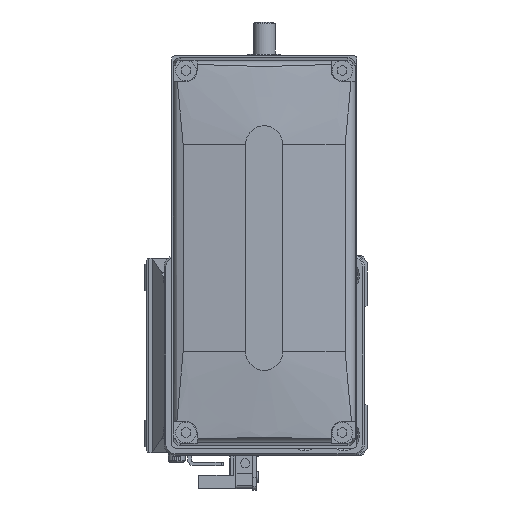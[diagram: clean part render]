
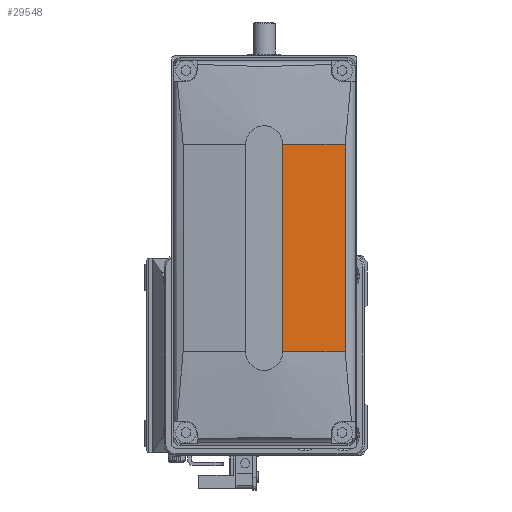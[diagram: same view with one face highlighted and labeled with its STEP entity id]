
A CAD part, left-side view. The second image highlights one B-rep face of the part: STEP entity #29548.
In plain terms, the highlighted planar face has unit normal (-0.996, -0.087, 0) as drawn and (-0.996, 0, -0.087) by its records, which use the part's own axes.
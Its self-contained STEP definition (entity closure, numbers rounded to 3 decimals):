
#158 = DIRECTION ( 'NONE',  ( -0.087, 0., 0.996 ) ) ;
#732 = EDGE_LOOP ( 'NONE', ( #13918, #8930, #9094, #34210 ) ) ;
#1643 = AXIS2_PLACEMENT_3D ( 'NONE', #5879, #23723, #15141 ) ;
#2808 = LINE ( 'NONE', #27849, #11688 ) ;
#4232 = VERTEX_POINT ( 'NONE', #18879 ) ;
#5879 = CARTESIAN_POINT ( 'NONE',  ( -50., 128., -5. ) ) ;
#6673 = EDGE_CURVE ( 'NONE', #12698, #12526, #38515, .T. ) ;
#8930 = ORIENTED_EDGE ( 'NONE', *, *, #32548, .F. ) ;
#9094 = ORIENTED_EDGE ( 'NONE', *, *, #6673, .F. ) ;
#9445 = CARTESIAN_POINT ( 'NONE',  ( 43606.406, -28., -499000. ) ) ;
#11650 = LINE ( 'NONE', #15083, #15860 ) ;
#11688 = VECTOR ( 'NONE', #13031, 1000. ) ;
#12526 = VERTEX_POINT ( 'NONE', #19085 ) ;
#12698 = VERTEX_POINT ( 'NONE', #14656 ) ;
#13031 = DIRECTION ( 'NONE',  ( 0., 1., 0. ) ) ;
#13918 = ORIENTED_EDGE ( 'NONE', *, *, #32941, .F. ) ;
#14372 = DIRECTION ( 'NONE',  ( 0., 1., 0. ) ) ;
#14500 = LINE ( 'NONE', #38021, #29283 ) ;
#14656 = CARTESIAN_POINT ( 'NONE',  ( -50., -28., -5. ) ) ;
#14710 = FACE_OUTER_BOUND ( 'NONE', #732, .T. ) ;
#14899 = EDGE_CURVE ( 'NONE', #12698, #4232, #14500, .T. ) ;
#15083 = CARTESIAN_POINT ( 'NONE',  ( 43606.406, 28., -499000. ) ) ;
#15141 = DIRECTION ( 'NONE',  ( -0.087, 0., 0.996 ) ) ;
#15860 = VECTOR ( 'NONE', #158, 1000. ) ;
#18547 = DIRECTION ( 'NONE',  ( 0.087, 0., -0.996 ) ) ;
#18879 = CARTESIAN_POINT ( 'NONE',  ( -50., 28., -5. ) ) ;
#19085 = CARTESIAN_POINT ( 'NONE',  ( -48.525, -28., -21.861 ) ) ;
#23723 = DIRECTION ( 'NONE',  ( -0.996, 0., -0.087 ) ) ;
#24219 = VERTEX_POINT ( 'NONE', #34253 ) ;
#27101 = PLANE ( 'NONE',  #1643 ) ;
#27849 = CARTESIAN_POINT ( 'NONE',  ( -48.525, 128., -21.861 ) ) ;
#29283 = VECTOR ( 'NONE', #14372, 1000. ) ;
#29548 = ADVANCED_FACE ( 'NONE', ( #14710 ), #27101, .T. ) ;
#32548 = EDGE_CURVE ( 'NONE', #12526, #24219, #2808, .T. ) ;
#32941 = EDGE_CURVE ( 'NONE', #24219, #4232, #11650, .T. ) ;
#34210 = ORIENTED_EDGE ( 'NONE', *, *, #14899, .T. ) ;
#34253 = CARTESIAN_POINT ( 'NONE',  ( -48.525, 28., -21.861 ) ) ;
#37589 = VECTOR ( 'NONE', #18547, 1000. ) ;
#38021 = CARTESIAN_POINT ( 'NONE',  ( -50., 128., -5. ) ) ;
#38515 = LINE ( 'NONE', #9445, #37589 ) ;
